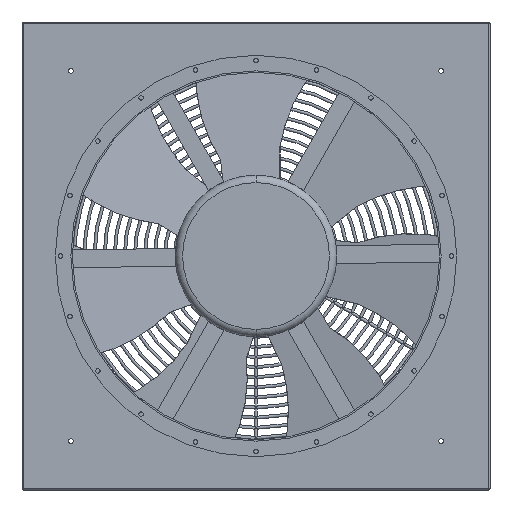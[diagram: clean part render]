
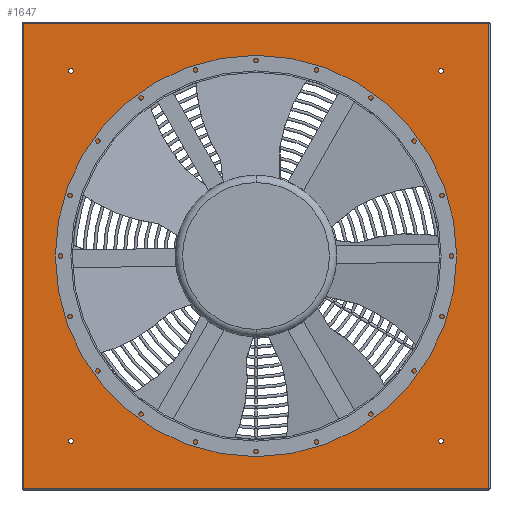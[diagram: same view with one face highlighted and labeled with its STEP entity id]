
A CAD part, front view. The second image highlights one B-rep face of the part: STEP entity #1647.
In plain terms, the highlighted planar face has unit normal (0, -1, 0).
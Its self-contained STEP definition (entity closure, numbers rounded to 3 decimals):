
#1647=ADVANCED_FACE('',(#3368,#3369,#3370,#3371,#3372,#3373),#3374,.F.);
#3368=FACE_OUTER_BOUND('',#5094,.T.);
#3369=FACE_BOUND('',#5095,.T.);
#3370=FACE_BOUND('',#5096,.T.);
#3371=FACE_BOUND('',#5097,.T.);
#3372=FACE_BOUND('',#5098,.T.);
#3373=FACE_BOUND('',#5099,.T.);
#3374=PLANE('',#5100);
#5094=EDGE_LOOP('',(#10638,#10639,#10640,#10641));
#5095=EDGE_LOOP('',(#10642,#10643));
#5096=EDGE_LOOP('',(#10644,#10645));
#5097=EDGE_LOOP('',(#10646,#10647));
#5098=EDGE_LOOP('',(#10648,#10649));
#5099=EDGE_LOOP('',(#10650,#10651));
#5100=AXIS2_PLACEMENT_3D('',#10652,#10653,#10654);
#10638=ORIENTED_EDGE('',*,*,#12926,.F.);
#10639=ORIENTED_EDGE('',*,*,#12932,.T.);
#10640=ORIENTED_EDGE('',*,*,#12938,.T.);
#10641=ORIENTED_EDGE('',*,*,#12966,.F.);
#10642=ORIENTED_EDGE('',*,*,#12905,.T.);
#10643=ORIENTED_EDGE('',*,*,#11488,.T.);
#10644=ORIENTED_EDGE('',*,*,#12914,.T.);
#10645=ORIENTED_EDGE('',*,*,#11478,.T.);
#10646=ORIENTED_EDGE('',*,*,#12916,.T.);
#10647=ORIENTED_EDGE('',*,*,#11473,.T.);
#10648=ORIENTED_EDGE('',*,*,#12918,.T.);
#10649=ORIENTED_EDGE('',*,*,#11468,.T.);
#10650=ORIENTED_EDGE('',*,*,#12920,.T.);
#10651=ORIENTED_EDGE('',*,*,#11463,.T.);
#10652=CARTESIAN_POINT('',(0.0,-520.0,0.0));
#10653=DIRECTION('',(0.0,1.0,0.0));
#10654=DIRECTION('',(1.0,0.0,-0.0));
#11463=EDGE_CURVE('',#14251,#14255,#14257,.T.);
#11468=EDGE_CURVE('',#14260,#14264,#14266,.T.);
#11473=EDGE_CURVE('',#14269,#14273,#14275,.T.);
#11478=EDGE_CURVE('',#14278,#14282,#14284,.T.);
#11488=EDGE_CURVE('',#14296,#14300,#14302,.T.);
#12905=EDGE_CURVE('',#14300,#14296,#16085,.T.);
#12914=EDGE_CURVE('',#14282,#14278,#16094,.T.);
#12916=EDGE_CURVE('',#14273,#14269,#16096,.T.);
#12918=EDGE_CURVE('',#14264,#14260,#16098,.T.);
#12920=EDGE_CURVE('',#14255,#14251,#16100,.T.);
#12926=EDGE_CURVE('',#16103,#16109,#16110,.T.);
#12932=EDGE_CURVE('',#16103,#16117,#16119,.T.);
#12938=EDGE_CURVE('',#16117,#16121,#16128,.T.);
#12966=EDGE_CURVE('',#16109,#16121,#16169,.T.);
#14251=VERTEX_POINT('',#29335);
#14255=VERTEX_POINT('',#29340);
#14257=CIRCLE('',#29343,8.0);
#14260=VERTEX_POINT('',#29346);
#14264=VERTEX_POINT('',#29351);
#14266=CIRCLE('',#29354,8.0);
#14269=VERTEX_POINT('',#29357);
#14273=VERTEX_POINT('',#29362);
#14275=CIRCLE('',#29365,8.0);
#14278=VERTEX_POINT('',#29368);
#14282=VERTEX_POINT('',#29373);
#14284=CIRCLE('',#29376,8.0);
#14296=VERTEX_POINT('',#29390);
#14300=VERTEX_POINT('',#29395);
#14302=CIRCLE('',#29398,625.0);
#16085=CIRCLE('',#43968,625.0);
#16094=CIRCLE('',#43977,8.0);
#16096=CIRCLE('',#43979,8.0);
#16098=CIRCLE('',#43981,8.0);
#16100=CIRCLE('',#43983,8.0);
#16103=VERTEX_POINT('',#43986);
#16109=VERTEX_POINT('',#43992);
#16110=LINE('',#43993,#43994);
#16117=VERTEX_POINT('',#44003);
#16119=LINE('',#44005,#44006);
#16121=VERTEX_POINT('',#44008);
#16128=LINE('',#44015,#44016);
#16169=LINE('',#44065,#44066);
#29335=CARTESIAN_POINT('',(-617.0,-520.0,-625.0));
#29340=CARTESIAN_POINT('',(-633.0,-520.0,-625.0));
#29343=AXIS2_PLACEMENT_3D('',#45137,#45138,#45139);
#29346=CARTESIAN_POINT('',(633.0,-520.0,-625.0));
#29351=CARTESIAN_POINT('',(617.0,-520.0,-625.0));
#29354=AXIS2_PLACEMENT_3D('',#45145,#45146,#45147);
#29357=CARTESIAN_POINT('',(633.0,-520.0,625.0));
#29362=CARTESIAN_POINT('',(617.0,-520.0,625.0));
#29365=AXIS2_PLACEMENT_3D('',#45153,#45154,#45155);
#29368=CARTESIAN_POINT('',(-617.0,-520.0,625.0));
#29373=CARTESIAN_POINT('',(-633.0,-520.0,625.0));
#29376=AXIS2_PLACEMENT_3D('',#45161,#45162,#45163);
#29390=CARTESIAN_POINT('',(625.0,-520.0,0.));
#29395=CARTESIAN_POINT('',(-625.0,-520.0,0.));
#29398=AXIS2_PLACEMENT_3D('',#45177,#45178,#45179);
#43968=AXIS2_PLACEMENT_3D('',#46621,#46622,#46623);
#43977=AXIS2_PLACEMENT_3D('',#46633,#46634,#46635);
#43979=AXIS2_PLACEMENT_3D('',#46636,#46637,#46638);
#43981=AXIS2_PLACEMENT_3D('',#46639,#46640,#46641);
#43983=AXIS2_PLACEMENT_3D('',#46642,#46643,#46644);
#43986=CARTESIAN_POINT('',(785.0,-520.0,785.0));
#43992=CARTESIAN_POINT('',(785.0,-520.0,-785.0));
#43993=CARTESIAN_POINT('',(785.0,-520.0,0.0));
#43994=VECTOR('',#46654,1.0);
#44003=CARTESIAN_POINT('',(-785.0,-520.0,785.0));
#44005=CARTESIAN_POINT('',(0.0,-520.0,785.0));
#44006=VECTOR('',#46663,1.0);
#44008=CARTESIAN_POINT('',(-785.0,-520.0,-785.0));
#44015=CARTESIAN_POINT('',(-785.0,-520.0,0.0));
#44016=VECTOR('',#46673,1.0);
#44065=CARTESIAN_POINT('',(0.,-520.0,-785.0));
#44066=VECTOR('',#46718,1.0);
#45137=CARTESIAN_POINT('',(-625.0,-520.0,-625.0));
#45138=DIRECTION('',(-0.0,1.0,0.0));
#45139=DIRECTION('',(1.0,0.0,0.0));
#45145=CARTESIAN_POINT('',(625.0,-520.0,-625.0));
#45146=DIRECTION('',(-0.0,1.0,0.0));
#45147=DIRECTION('',(1.0,0.0,0.0));
#45153=CARTESIAN_POINT('',(625.0,-520.0,625.0));
#45154=DIRECTION('',(-0.0,1.0,0.0));
#45155=DIRECTION('',(1.0,0.0,0.0));
#45161=CARTESIAN_POINT('',(-625.0,-520.0,625.0));
#45162=DIRECTION('',(-0.0,1.0,0.0));
#45163=DIRECTION('',(1.0,0.0,0.0));
#45177=CARTESIAN_POINT('',(0.0,-520.0,0.0));
#45178=DIRECTION('',(-0.0,1.0,0.0));
#45179=DIRECTION('',(1.0,0.0,0.0));
#46621=CARTESIAN_POINT('',(0.0,-520.0,0.0));
#46622=DIRECTION('',(-0.0,1.0,0.0));
#46623=DIRECTION('',(1.0,0.0,0.0));
#46633=CARTESIAN_POINT('',(-625.0,-520.0,625.0));
#46634=DIRECTION('',(-0.0,1.0,0.0));
#46635=DIRECTION('',(1.0,0.0,0.0));
#46636=CARTESIAN_POINT('',(625.0,-520.0,625.0));
#46637=DIRECTION('',(-0.0,1.0,0.0));
#46638=DIRECTION('',(1.0,0.0,0.0));
#46639=CARTESIAN_POINT('',(625.0,-520.0,-625.0));
#46640=DIRECTION('',(-0.0,1.0,0.0));
#46641=DIRECTION('',(1.0,0.0,0.0));
#46642=CARTESIAN_POINT('',(-625.0,-520.0,-625.0));
#46643=DIRECTION('',(-0.0,1.0,0.0));
#46644=DIRECTION('',(1.0,0.0,0.0));
#46654=DIRECTION('',(0.0,0.0,-1.0));
#46663=DIRECTION('',(-1.0,0.,0.));
#46673=DIRECTION('',(0.0,0.0,-1.0));
#46718=DIRECTION('',(-1.0,0.,0.));
